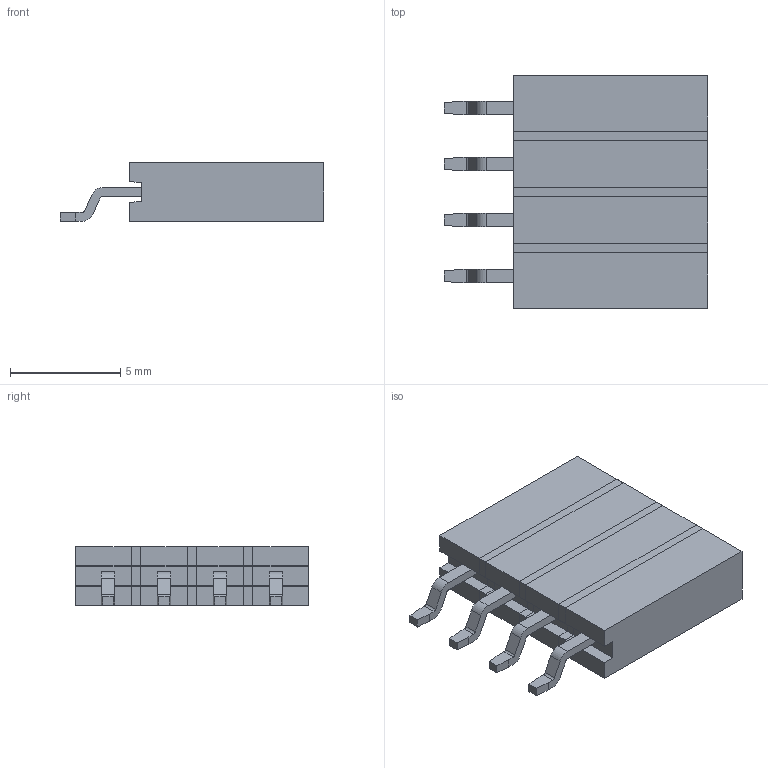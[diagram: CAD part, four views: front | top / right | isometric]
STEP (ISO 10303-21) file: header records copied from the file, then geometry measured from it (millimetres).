
FILE_DESCRIPTION(('FreeCAD Model'),'2;1');
FILE_NAME('Open CASCADE Shape Model','2025-02-26T21:59:55',( 'Krisjanis Rijnieks'),(''),'Open CASCADE STEP processor 7.7', 'FreeCAD','Unknown');
FILE_SCHEMA(('AUTOMOTIVE_DESIGN { 1 0 10303 214 1 1 1 1 }'));
Length unit declared in the file: millimetre
Products named in the file (15): 01x04_P2.54mm_Horizontal_SMD; 01x01_P2.54mm_Horizontal_SMD006; HorizontalLead006; HorizontalSocket006; 01x03_P2.54mm_Horizontal_SMD001; 01x01_P2.54mm_Horizontal_SMD007; HorizontalLead007; HorizontalSocket007; 01x02_P2.54mm_Horizontal_SMD002; 01x01_P2.54mm_Horizontal_SMD008; HorizontalLead008; HorizontalSocket008; 01x01_P2.54mm_Horizontal_SMD009; HorizontalLead009; HorizontalSocket009
Assembly tree (14 placements, depth 5):
  01x04_P2.54mm_Horizontal_SMD
    01x01_P2.54mm_Horizontal_SMD006
      HorizontalLead006
      HorizontalSocket006
    01x03_P2.54mm_Horizontal_SMD001
      01x01_P2.54mm_Horizontal_SMD007
        HorizontalLead007
        HorizontalSocket007
      01x02_P2.54mm_Horizontal_SMD002
        01x01_P2.54mm_Horizontal_SMD008
          HorizontalLead008
          HorizontalSocket008
        01x01_P2.54mm_Horizontal_SMD009
          HorizontalLead009
          HorizontalSocket009
Bounding box: 11.95 x 10.56 x 2.65 mm (x, y, z)
Volume: 257.1 mm3; surface area: 594 mm2
Topology: 8 solids, 8 shells, 140 faces, 344 edges, 224 vertices
Faces by surface type: plane 124, cylinder 16
Entity records: 4383 total; most frequent: CARTESIAN_POINT 723, ORIENTED_EDGE 688, DIRECTION 686, EDGE_CURVE 344, LINE 312, VECTOR 312, VERTEX_POINT 224, AXIS2_PLACEMENT_3D 187
